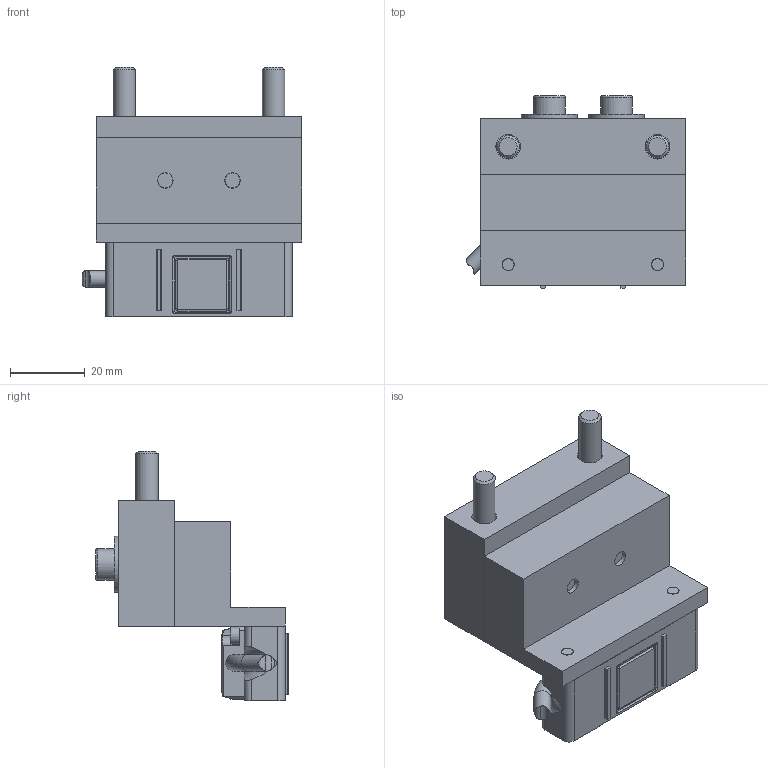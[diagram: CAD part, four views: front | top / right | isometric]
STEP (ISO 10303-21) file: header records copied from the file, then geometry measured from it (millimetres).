
FILE_DESCRIPTION(/* description */ (''),/* implementation_level */ '2;1');
FILE_NAME(/* name */ 'D:\Luboš_škola\Diplomka\FINAL\2020-01-S004.stp',/* time_stamp */ '2020-06-25T21:48:35+02:00',/* author */ ('Lubos'),/* organization */ (''),/* preprocessor_version */ 'ST-DEVELOPER v16.13',/* originating_system */ 'Autodesk Inventor 2018',/* authorisation */ '');
FILE_SCHEMA (('AUTOMOTIVE_DESIGN { 1 0 10303 214 3 1 1 }'));
Length unit declared in the file: millimetre
Products named in the file (8): 2020-01-S004; 2020-01-0026; 2020-01-0017; AK ERM 2280_1144028-15; DIN 9021 - 5,3; ISO 4762 - M4 x 20; ISO 4762 - M6 x 40; ISO 4762 - M5 x 30
Assembly tree (11 placements, depth 2):
  2020-01-S004
    2020-01-0026
    2020-01-0017
    AK ERM 2280_1144028-15
    DIN 9021 - 5,3  x2
    ISO 4762 - M4 x 20  x2
    ISO 4762 - M6 x 40  x2
    ISO 4762 - M5 x 30  x2
Bounding box: 58.69 x 51.54 x 66.8 mm (x, y, z)
Volume: 67543.7 mm3; surface area: 26937.3 mm2
Topology: 11 solids, 11 shells, 292 faces, 711 edges, 464 vertices
Faces by surface type: plane 177, cylinder 74, torus 21, cone 14, bspline 6
Full cylindrical faces by diameter (mm): 3.242 x2, 4 x2, 4.134 x2, 4.5 x3, 5 x2, 5.3 x2, 6 x2, 6.6 x2, 7 x2, 8.5 x2, 10 x2, 11 x2, 15 x2
Entity records: 7604 total; most frequent: CARTESIAN_POINT 1570, DIRECTION 1199, ORIENTED_EDGE 1130, EDGE_CURVE 565, AXIS2_PLACEMENT_3D 411, VERTEX_POINT 390, LINE 377, VECTOR 377
